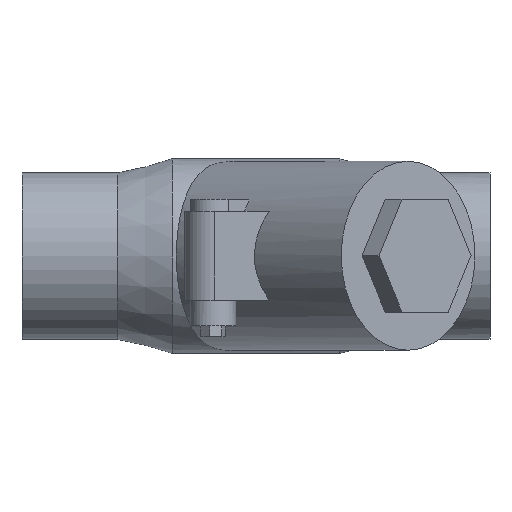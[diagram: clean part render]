
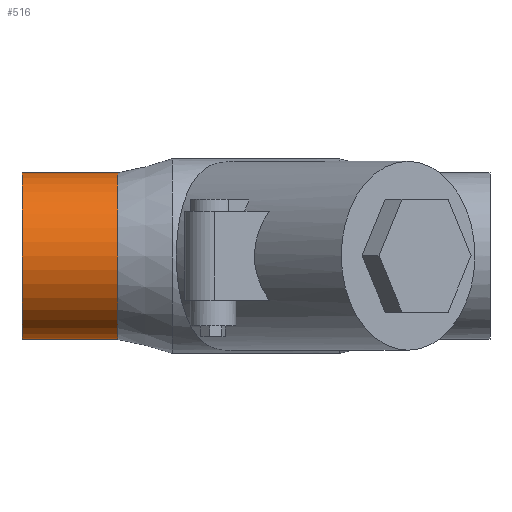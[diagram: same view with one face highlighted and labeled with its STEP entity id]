
A CAD part, top view. The second image highlights one B-rep face of the part: STEP entity #516.
In plain terms, the highlighted cylindrical face has radius 1.19 mm (diameter 2.38 mm), a full revolution.
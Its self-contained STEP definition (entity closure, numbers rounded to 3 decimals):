
#289 = PLANE('',#290);
#290 = AXIS2_PLACEMENT_3D('',#291,#292,#293);
#291 = CARTESIAN_POINT('',(0.,0.,0.));
#292 = DIRECTION('',(-1.,0.,0.));
#293 = DIRECTION('',(0.,0.,1.));
#516 = ADVANCED_FACE('',(#517),#530,.T.);
#517 = FACE_BOUND('',#518,.T.);
#518 = EDGE_LOOP('',(#519,#548,#570,#599,#621));
#519 = ORIENTED_EDGE('',*,*,#520,.F.);
#520 = EDGE_CURVE('',#521,#521,#523,.T.);
#521 = VERTEX_POINT('',#522);
#522 = CARTESIAN_POINT('',(0.,-1.19,0.));
#523 = SURFACE_CURVE('',#524,(#529,#541),.PCURVE_S1.);
#524 = CIRCLE('',#525,1.19);
#525 = AXIS2_PLACEMENT_3D('',#526,#527,#528);
#526 = CARTESIAN_POINT('',(0.,0.,0.));
#527 = DIRECTION('',(-1.,0.,0.));
#528 = DIRECTION('',(0.,-1.,0.));
#529 = PCURVE('',#530,#535);
#530 = CYLINDRICAL_SURFACE('',#531,1.19);
#531 = AXIS2_PLACEMENT_3D('',#532,#533,#534);
#532 = CARTESIAN_POINT('',(0.,0.,0.));
#533 = DIRECTION('',(1.,0.,0.));
#534 = DIRECTION('',(0.,-1.,0.));
#535 = DEFINITIONAL_REPRESENTATION('',(#536),#540);
#536 = LINE('',#537,#538);
#537 = CARTESIAN_POINT('',(6.283,0.));
#538 = VECTOR('',#539,1.);
#539 = DIRECTION('',(-1.,0.));
#540 = ( GEOMETRIC_REPRESENTATION_CONTEXT(2) 
PARAMETRIC_REPRESENTATION_CONTEXT() REPRESENTATION_CONTEXT('2D SPACE',''
  ) );
#541 = PCURVE('',#289,#542);
#542 = DEFINITIONAL_REPRESENTATION('',(#543),#547);
#543 = CIRCLE('',#544,1.19);
#544 = AXIS2_PLACEMENT_2D('',#545,#546);
#545 = CARTESIAN_POINT('',(0.,0.));
#546 = DIRECTION('',(0.,-1.));
#547 = ( GEOMETRIC_REPRESENTATION_CONTEXT(2) 
PARAMETRIC_REPRESENTATION_CONTEXT() REPRESENTATION_CONTEXT('2D SPACE',''
  ) );
#548 = ORIENTED_EDGE('',*,*,#549,.T.);
#549 = EDGE_CURVE('',#521,#550,#552,.T.);
#550 = VERTEX_POINT('',#551);
#551 = CARTESIAN_POINT('',(1.366,-1.19,0.));
#552 = SEAM_CURVE('',#553,(#556,#563),.PCURVE_S1.);
#553 = B_SPLINE_CURVE_WITH_KNOTS('',1,(#554,#555),.UNSPECIFIED.,.F.,.F.,
  (2,2),(0.,1.366),.PIECEWISE_BEZIER_KNOTS.);
#554 = CARTESIAN_POINT('',(0.,-1.19,0.));
#555 = CARTESIAN_POINT('',(1.366,-1.19,0.));
#556 = PCURVE('',#530,#557);
#557 = DEFINITIONAL_REPRESENTATION('',(#558),#562);
#558 = LINE('',#559,#560);
#559 = CARTESIAN_POINT('',(6.283,0.));
#560 = VECTOR('',#561,1.);
#561 = DIRECTION('',(0.,1.));
#562 = ( GEOMETRIC_REPRESENTATION_CONTEXT(2) 
PARAMETRIC_REPRESENTATION_CONTEXT() REPRESENTATION_CONTEXT('2D SPACE',''
  ) );
#563 = PCURVE('',#530,#564);
#564 = DEFINITIONAL_REPRESENTATION('',(#565),#569);
#565 = LINE('',#566,#567);
#566 = CARTESIAN_POINT('',(0.,0.));
#567 = VECTOR('',#568,1.);
#568 = DIRECTION('',(0.,1.));
#569 = ( GEOMETRIC_REPRESENTATION_CONTEXT(2) 
PARAMETRIC_REPRESENTATION_CONTEXT() REPRESENTATION_CONTEXT('2D SPACE',''
  ) );
#570 = ORIENTED_EDGE('',*,*,#571,.F.);
#571 = EDGE_CURVE('',#572,#550,#574,.T.);
#572 = VERTEX_POINT('',#573);
#573 = CARTESIAN_POINT('',(1.366,0.,1.19));
#574 = SURFACE_CURVE('',#575,(#580,#587),.PCURVE_S1.);
#575 = CIRCLE('',#576,1.19);
#576 = AXIS2_PLACEMENT_3D('',#577,#578,#579);
#577 = CARTESIAN_POINT('',(1.366,0.,0.));
#578 = DIRECTION('',(1.,0.,-0.));
#579 = DIRECTION('',(0.,0.,1.));
#580 = PCURVE('',#530,#581);
#581 = DEFINITIONAL_REPRESENTATION('',(#582),#586);
#582 = LINE('',#583,#584);
#583 = CARTESIAN_POINT('',(4.712,1.366));
#584 = VECTOR('',#585,1.);
#585 = DIRECTION('',(1.,0.));
#586 = ( GEOMETRIC_REPRESENTATION_CONTEXT(2) 
PARAMETRIC_REPRESENTATION_CONTEXT() REPRESENTATION_CONTEXT('2D SPACE',''
  ) );
#587 = PCURVE('',#588,#593);
#588 = CONICAL_SURFACE('',#589,1.293,0.256);
#589 = AXIS2_PLACEMENT_3D('',#590,#591,#592);
#590 = CARTESIAN_POINT('',(1.758,0.,0.));
#591 = DIRECTION('',(1.,0.,0.));
#592 = DIRECTION('',(0.,0.,1.));
#593 = DEFINITIONAL_REPRESENTATION('',(#594),#598);
#594 = LINE('',#595,#596);
#595 = CARTESIAN_POINT('',(0.,-0.392));
#596 = VECTOR('',#597,1.);
#597 = DIRECTION('',(1.,0.));
#598 = ( GEOMETRIC_REPRESENTATION_CONTEXT(2) 
PARAMETRIC_REPRESENTATION_CONTEXT() REPRESENTATION_CONTEXT('2D SPACE',''
  ) );
#599 = ORIENTED_EDGE('',*,*,#600,.F.);
#600 = EDGE_CURVE('',#550,#572,#601,.T.);
#601 = SURFACE_CURVE('',#602,(#607,#614),.PCURVE_S1.);
#602 = CIRCLE('',#603,1.19);
#603 = AXIS2_PLACEMENT_3D('',#604,#605,#606);
#604 = CARTESIAN_POINT('',(1.366,0.,0.));
#605 = DIRECTION('',(1.,0.,-0.));
#606 = DIRECTION('',(0.,0.,1.));
#607 = PCURVE('',#530,#608);
#608 = DEFINITIONAL_REPRESENTATION('',(#609),#613);
#609 = LINE('',#610,#611);
#610 = CARTESIAN_POINT('',(-1.571,1.366));
#611 = VECTOR('',#612,1.);
#612 = DIRECTION('',(1.,0.));
#613 = ( GEOMETRIC_REPRESENTATION_CONTEXT(2) 
PARAMETRIC_REPRESENTATION_CONTEXT() REPRESENTATION_CONTEXT('2D SPACE',''
  ) );
#614 = PCURVE('',#588,#615);
#615 = DEFINITIONAL_REPRESENTATION('',(#616),#620);
#616 = LINE('',#617,#618);
#617 = CARTESIAN_POINT('',(0.,-0.392));
#618 = VECTOR('',#619,1.);
#619 = DIRECTION('',(1.,0.));
#620 = ( GEOMETRIC_REPRESENTATION_CONTEXT(2) 
PARAMETRIC_REPRESENTATION_CONTEXT() REPRESENTATION_CONTEXT('2D SPACE',''
  ) );
#621 = ORIENTED_EDGE('',*,*,#549,.F.);
